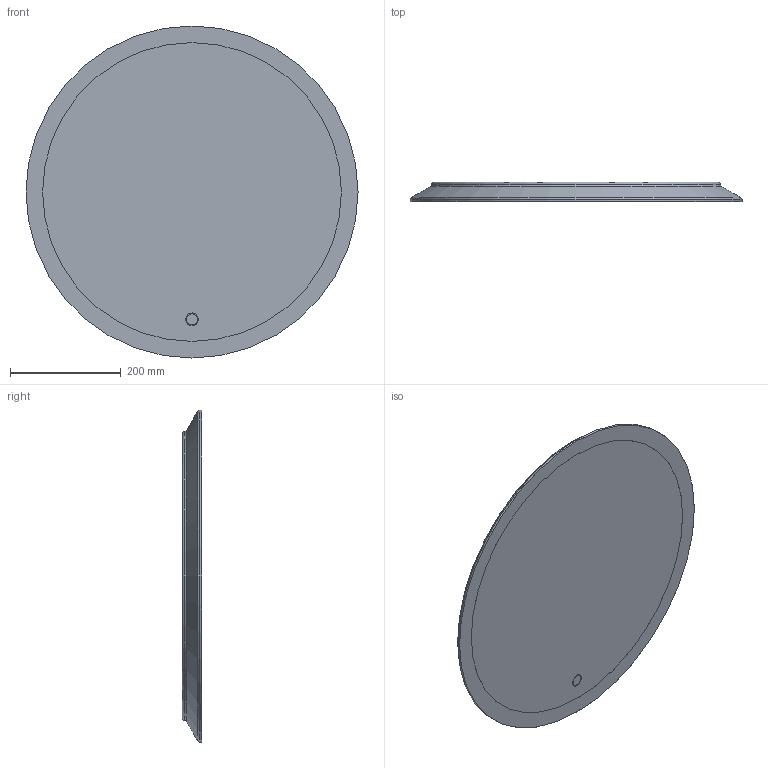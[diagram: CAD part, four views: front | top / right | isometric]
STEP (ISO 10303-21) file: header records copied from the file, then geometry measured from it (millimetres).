
FILE_DESCRIPTION(/* description */ (''),/* implementation_level */ '2;1');
FILE_NAME(/* name */ 'C:\Planerdaten\Export PLA\502.797.00.1\stp\502797.stp',/* time_stamp */ '2022-12-02T15:07:24+01:00',/* author */ ('JANAN'),/* organization */ (''),/* preprocessor_version */ 'ST-DEVELOPER v18.1',/* originating_system */ 'Autodesk Inventor 2021',/* authorisation */ '');
FILE_SCHEMA (('AUTOMOTIVE_DESIGN { 1 0 10303 214 3 1 1 }'));
Length unit declared in the file: millimetre
Products named in the file (1): tmp169C.tmp
Bounding box: 600 x 35.1 x 600 mm (x, y, z)
Volume: 8649180.5 mm3; surface area: 1264942.1 mm2
Topology: 4 solids, 4 shells, 25 faces, 55 edges, 41 vertices
Faces by surface type: plane 11, cylinder 10, torus 3, cone 1
Full cylindrical faces by diameter (mm): 8 x3, 20 x1, 23 x1, 522 x1, 540 x1, 598 x1, 600 x2
Entity records: 826 total; most frequent: DIRECTION 151, CARTESIAN_POINT 122, ORIENTED_EDGE 110, AXIS2_PLACEMENT_3D 70, EDGE_CURVE 55, CIRCLE 44, VERTEX_POINT 41, EDGE_LOOP 32
